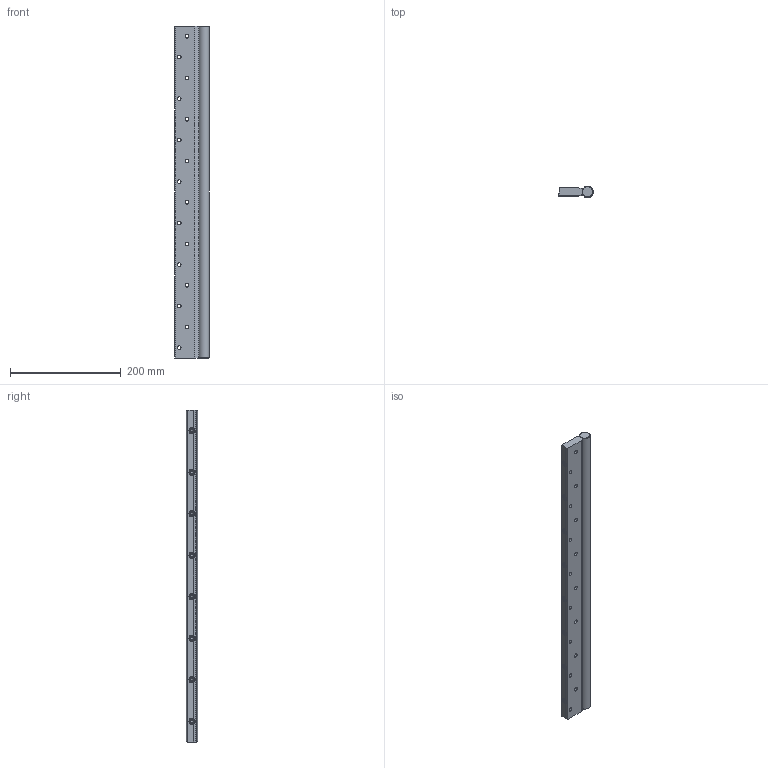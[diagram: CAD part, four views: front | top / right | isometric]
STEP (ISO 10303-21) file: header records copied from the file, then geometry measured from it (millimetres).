
FILE_DESCRIPTION(('STEP AP203'),'1');
FILE_NAME('SGY20-600.stp','2022-07-07T04:53:26',(' '),(' '),'Spatial InterOp 3D',' ',' ');
FILE_SCHEMA(('CONFIG_CONTROL_DESIGN'));
Length unit declared in the file: millimetre
Products named in the file (4): SGY20-600; M6-45; OP20-600_SRY; SRY-20
Assembly tree (10 placements, depth 2):
  SGY20-600
    M6-45  x8
    OP20-600_SRY
    SRY-20
Bounding box: 62 x 20 x 600 mm (x, y, z)
Volume: 530223.2 mm3; surface area: 129858.1 mm2
Topology: 10 solids, 10 shells, 288 faces, 626 edges, 382 vertices
Faces by surface type: plane 116, cone 82, cylinder 82, torus 8
Full cylindrical faces by diameter (mm): 5 x16, 6 x8, 6.6 x24, 10 x8, 11 x24, 20 x1
Entity records: 5233 total; most frequent: CARTESIAN_POINT 1884, DIRECTION 629, ORIENTED_EDGE 444, AXIS2_PLACEMENT_3D 291, EDGE_LOOP 287, EDGE_CURVE 222, FACE_OUTER_BOUND 209, VERTEX_POINT 194
